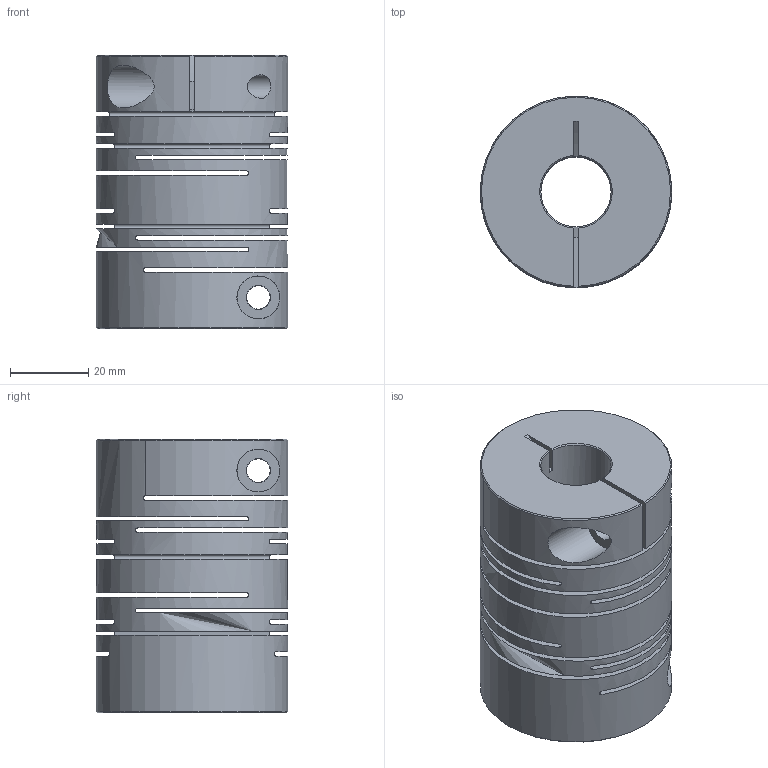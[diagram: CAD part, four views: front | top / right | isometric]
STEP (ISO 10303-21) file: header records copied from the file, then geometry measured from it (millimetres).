
FILE_DESCRIPTION( ( 'Unknown' ), '1' );
FILE_NAME( 'D:/3D/目敲傅/Radial Beam/SRBB Type/SRBB-49C/SRBB-49C.stp', 'Unknown', ( 'Unknown' ), ( 'Unknown' ), 'XStep 1.0', 'Unknown', ' ' );
FILE_SCHEMA( ( 'CONFIG_CONTROL_DESIGN' ) );
Length unit declared in the file: millimetre
Products named in the file (1): 1
Bounding box: 49 x 49 x 70 mm (x, y, z)
Volume: 94823.9 mm3; surface area: 44829.2 mm2
Topology: 1 solids, 1 shells, 75 faces, 213 edges, 144 vertices
Faces by surface type: plane 35, cylinder 34, cone 6
Full cylindrical faces by diameter (mm): 6 x2, 6.2 x4, 11 x2, 18 x2, 19 x9, 49 x1
Entity records: 2730 total; most frequent: CARTESIAN_POINT 951, DIRECTION 348, ORIENTED_EDGE 324, EDGE_CURVE 162, AXIS2_PLACEMENT_3D 149, EDGE_LOOP 134, VERTEX_POINT 120, FACE_OUTER_BOUND 94
